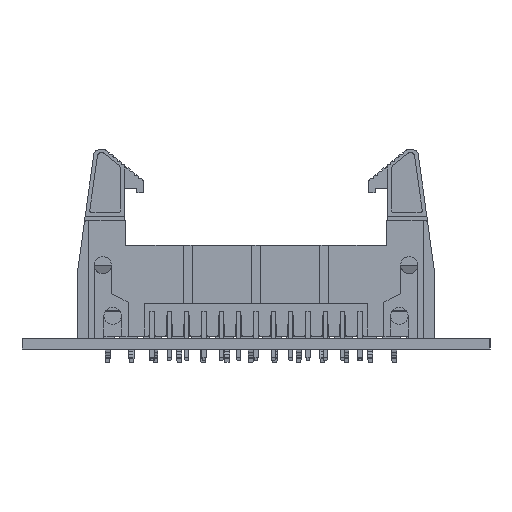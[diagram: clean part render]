
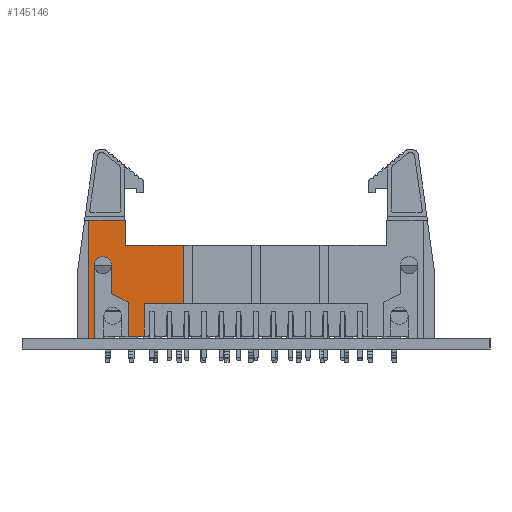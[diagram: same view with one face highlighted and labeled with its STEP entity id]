
A CAD part, left-side view. The second image highlights one B-rep face of the part: STEP entity #145146.
In plain terms, the highlighted planar face has unit normal (-1, 0, 0) as drawn and (0, -1, 0) by its records, which use the part's own axes.
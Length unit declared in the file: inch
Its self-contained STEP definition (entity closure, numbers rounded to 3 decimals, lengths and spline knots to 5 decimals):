
#710 = CARTESIAN_POINT ( 'NONE',  ( -1.02795, -0.15748, 0. ) ) ;
#1388 = EDGE_CURVE ( 'NONE', #126394, #115255, #12097, .T. ) ;
#2013 = DIRECTION ( 'NONE',  ( 0., -1., 0. ) ) ;
#3012 = VECTOR ( 'NONE', #26332, 39.37008 ) ;
#3182 = CARTESIAN_POINT ( 'NONE',  ( 0.83425, -0.15748, 0. ) ) ;
#4407 = CARTESIAN_POINT ( 'NONE',  ( 0.96496, -0.15748, -0.66969 ) ) ;
#4513 = VECTOR ( 'NONE', #27722, 39.37008 ) ;
#7515 = LINE ( 'NONE', #22619, #129372 ) ;
#8972 = CARTESIAN_POINT ( 'NONE',  ( 0.83425, -0.15748, -0.24409 ) ) ;
#9207 = LINE ( 'NONE', #115929, #81959 ) ;
#12097 = CIRCLE ( 'NONE', #108295, 0.05 ) ;
#12497 = DIRECTION ( 'NONE',  ( 1., 0., 0. ) ) ;
#12683 = CARTESIAN_POINT ( 'NONE',  ( 0.75236, -0.15748, 0. ) ) ;
#13408 = EDGE_CURVE ( 'NONE', #123685, #40946, #24877, .T. ) ;
#16164 = LINE ( 'NONE', #117975, #4513 ) ;
#19368 = CARTESIAN_POINT ( 'NONE',  ( 0.83425, -0.15748, -0.40945 ) ) ;
#22619 = CARTESIAN_POINT ( 'NONE',  ( 0.7374, -0.15748, 0. ) ) ;
#23137 = ORIENTED_EDGE ( 'NONE', *, *, #147590, .F. ) ;
#23338 = CARTESIAN_POINT ( 'NONE',  ( 0.64606, -0.15748, -0.18898 ) ) ;
#23668 = CARTESIAN_POINT ( 'NONE',  ( 0., -0.15748, -0.52362 ) ) ;
#24697 = CARTESIAN_POINT ( 'NONE',  ( 0.75236, -0.15748, -0.66969 ) ) ;
#24877 = LINE ( 'NONE', #23668, #31833 ) ;
#25269 = DIRECTION ( 'NONE',  ( 0., 0., 1. ) ) ;
#25949 = VECTOR ( 'NONE', #12497, 39.37008 ) ;
#26332 = DIRECTION ( 'NONE',  ( -1., 0., 0. ) ) ;
#27079 = VERTEX_POINT ( 'NONE', #173664 ) ;
#27722 = DIRECTION ( 'NONE',  ( 0., 0., -1. ) ) ;
#29618 = DIRECTION ( 'NONE',  ( 1., 0., 0. ) ) ;
#29628 = CARTESIAN_POINT ( 'NONE',  ( 0.88425, -0.15748, -0.40945 ) ) ;
#30697 = CARTESIAN_POINT ( 'NONE',  ( 0., -0.15748, -0.18898 ) ) ;
#31833 = VECTOR ( 'NONE', #160656, 39.37008 ) ;
#33386 = VECTOR ( 'NONE', #170713, 39.37008 ) ;
#40624 = ORIENTED_EDGE ( 'NONE', *, *, #155010, .F. ) ;
#40946 = VERTEX_POINT ( 'NONE', #87500 ) ;
#42198 = VECTOR ( 'NONE', #29618, 39.37008 ) ;
#42656 = LINE ( 'NONE', #156188, #33386 ) ;
#45019 = LINE ( 'NONE', #111016, #101208 ) ;
#46068 = VECTOR ( 'NONE', #135524, 39.37008 ) ;
#50886 = EDGE_CURVE ( 'NONE', #55439, #176529, #71885, .T. ) ;
#55439 = VERTEX_POINT ( 'NONE', #189790 ) ;
#57596 = VECTOR ( 'NONE', #123708, 39.37008 ) ;
#57808 = EDGE_CURVE ( 'NONE', #158298, #124716, #7515, .T. ) ;
#70193 = VERTEX_POINT ( 'NONE', #73597 ) ;
#71885 = LINE ( 'NONE', #30697, #46068 ) ;
#73597 = CARTESIAN_POINT ( 'NONE',  ( 0.93425, -0.15748, 0.01181 ) ) ;
#76225 = CARTESIAN_POINT ( 'NONE',  ( 0., -0.15748, 0. ) ) ;
#77954 = ORIENTED_EDGE ( 'NONE', *, *, #101813, .F. ) ;
#81204 = ORIENTED_EDGE ( 'NONE', *, *, #173154, .F. ) ;
#81959 = VECTOR ( 'NONE', #98927, 39.37008 ) ;
#85506 = ORIENTED_EDGE ( 'NONE', *, *, #1388, .F. ) ;
#87056 = ORIENTED_EDGE ( 'NONE', *, *, #170719, .F. ) ;
#87500 = CARTESIAN_POINT ( 'NONE',  ( 0.4189, -0.15748, -0.52362 ) ) ;
#88411 = VERTEX_POINT ( 'NONE', #139034 ) ;
#89117 = VERTEX_POINT ( 'NONE', #24697 ) ;
#90278 = ORIENTED_EDGE ( 'NONE', *, *, #116577, .F. ) ;
#95735 = ORIENTED_EDGE ( 'NONE', *, *, #57808, .F. ) ;
#98095 = ORIENTED_EDGE ( 'NONE', *, *, #188803, .F. ) ;
#98927 = DIRECTION ( 'NONE',  ( 0., 0., 1. ) ) ;
#99150 = LINE ( 'NONE', #115297, #3012 ) ;
#101208 = VECTOR ( 'NONE', #140027, 39.37008 ) ;
#101813 = EDGE_CURVE ( 'NONE', #89117, #123685, #136288, .T. ) ;
#108295 = AXIS2_PLACEMENT_3D ( 'NONE', #29628, #2013, #194448 ) ;
#111016 = CARTESIAN_POINT ( 'NONE',  ( 0.93425, -0.15748, 0. ) ) ;
#111287 = VECTOR ( 'NONE', #141639, 39.37008 ) ;
#115255 = VERTEX_POINT ( 'NONE', #175174 ) ;
#115297 = CARTESIAN_POINT ( 'NONE',  ( 0., -0.15748, -0.66969 ) ) ;
#115929 = CARTESIAN_POINT ( 'NONE',  ( 0.64606, -0.15748, 0. ) ) ;
#116577 = EDGE_CURVE ( 'NONE', #40946, #55439, #156072, .T. ) ;
#117975 = CARTESIAN_POINT ( 'NONE',  ( 0.96496, -0.15748, 0. ) ) ;
#120723 = CARTESIAN_POINT ( 'NONE',  ( 0.7374, -0.15748, -0.19685 ) ) ;
#121416 = DIRECTION ( 'NONE',  ( 0., 0., 1. ) ) ;
#123685 = VERTEX_POINT ( 'NONE', #177841 ) ;
#123708 = DIRECTION ( 'NONE',  ( 0., 0., -1. ) ) ;
#124489 = EDGE_CURVE ( 'NONE', #115255, #70193, #45019, .T. ) ;
#124716 = VERTEX_POINT ( 'NONE', #120723 ) ;
#126394 = VERTEX_POINT ( 'NONE', #19368 ) ;
#128029 = LINE ( 'NONE', #3182, #57596 ) ;
#129372 = VECTOR ( 'NONE', #174071, 39.37008 ) ;
#131117 = ORIENTED_EDGE ( 'NONE', *, *, #50886, .F. ) ;
#131769 = CARTESIAN_POINT ( 'NONE',  ( 0., -0.15748, 0.01181 ) ) ;
#133259 = EDGE_LOOP ( 'NONE', ( #98095, #40624, #95735, #87056, #23137, #131117, #90278, #177824, #77954, #81204, #154415, #146747, #191739, #85506 ) ) ;
#133658 = LINE ( 'NONE', #710, #42198 ) ;
#135524 = DIRECTION ( 'NONE',  ( 1., 0., 0. ) ) ;
#136288 = LINE ( 'NONE', #12683, #161926 ) ;
#139034 = CARTESIAN_POINT ( 'NONE',  ( 0.64606, -0.15748, 0. ) ) ;
#140027 = DIRECTION ( 'NONE',  ( 0., 0., 1. ) ) ;
#140082 = FACE_OUTER_BOUND ( 'NONE', #133259, .T. ) ;
#141639 = DIRECTION ( 'NONE',  ( 0., 0., 1. ) ) ;
#144254 = AXIS2_PLACEMENT_3D ( 'NONE', #76225, #168126, #121416 ) ;
#145146 = ADVANCED_FACE ( 'NONE', ( #140082 ), #182089, .F. ) ;
#146747 = ORIENTED_EDGE ( 'NONE', *, *, #153667, .F. ) ;
#147590 = EDGE_CURVE ( 'NONE', #176529, #88411, #9207, .T. ) ;
#153667 = EDGE_CURVE ( 'NONE', #70193, #27079, #185675, .T. ) ;
#154415 = ORIENTED_EDGE ( 'NONE', *, *, #166089, .F. ) ;
#155010 = EDGE_CURVE ( 'NONE', #124716, #173651, #42656, .T. ) ;
#156072 = LINE ( 'NONE', #171278, #111287 ) ;
#156188 = CARTESIAN_POINT ( 'NONE',  ( 0.7374, -0.15748, -0.19685 ) ) ;
#158298 = VERTEX_POINT ( 'NONE', #173776 ) ;
#160656 = DIRECTION ( 'NONE',  ( -1., 0., 0. ) ) ;
#161926 = VECTOR ( 'NONE', #25269, 39.37008 ) ;
#166089 = EDGE_CURVE ( 'NONE', #27079, #190140, #16164, .T. ) ;
#168126 = DIRECTION ( 'NONE',  ( 0., 1., 0. ) ) ;
#170713 = DIRECTION ( 'NONE',  ( 0.899, 0., -0.438 ) ) ;
#170719 = EDGE_CURVE ( 'NONE', #88411, #158298, #133658, .T. ) ;
#171278 = CARTESIAN_POINT ( 'NONE',  ( 0.4189, -0.15748, 0. ) ) ;
#173154 = EDGE_CURVE ( 'NONE', #190140, #89117, #99150, .T. ) ;
#173651 = VERTEX_POINT ( 'NONE', #8972 ) ;
#173664 = CARTESIAN_POINT ( 'NONE',  ( 0.96496, -0.15748, 0.01181 ) ) ;
#173776 = CARTESIAN_POINT ( 'NONE',  ( 0.7374, -0.15748, 0. ) ) ;
#174071 = DIRECTION ( 'NONE',  ( 0., 0., -1. ) ) ;
#175174 = CARTESIAN_POINT ( 'NONE',  ( 0.93425, -0.15748, -0.40945 ) ) ;
#176529 = VERTEX_POINT ( 'NONE', #23338 ) ;
#177824 = ORIENTED_EDGE ( 'NONE', *, *, #13408, .F. ) ;
#177841 = CARTESIAN_POINT ( 'NONE',  ( 0.75236, -0.15748, -0.52362 ) ) ;
#182089 = PLANE ( 'NONE',  #144254 ) ;
#185675 = LINE ( 'NONE', #131769, #25949 ) ;
#188803 = EDGE_CURVE ( 'NONE', #173651, #126394, #128029, .T. ) ;
#189790 = CARTESIAN_POINT ( 'NONE',  ( 0.4189, -0.15748, -0.18898 ) ) ;
#190140 = VERTEX_POINT ( 'NONE', #4407 ) ;
#191739 = ORIENTED_EDGE ( 'NONE', *, *, #124489, .F. ) ;
#194448 = DIRECTION ( 'NONE',  ( 0., 0., 1. ) ) ;
